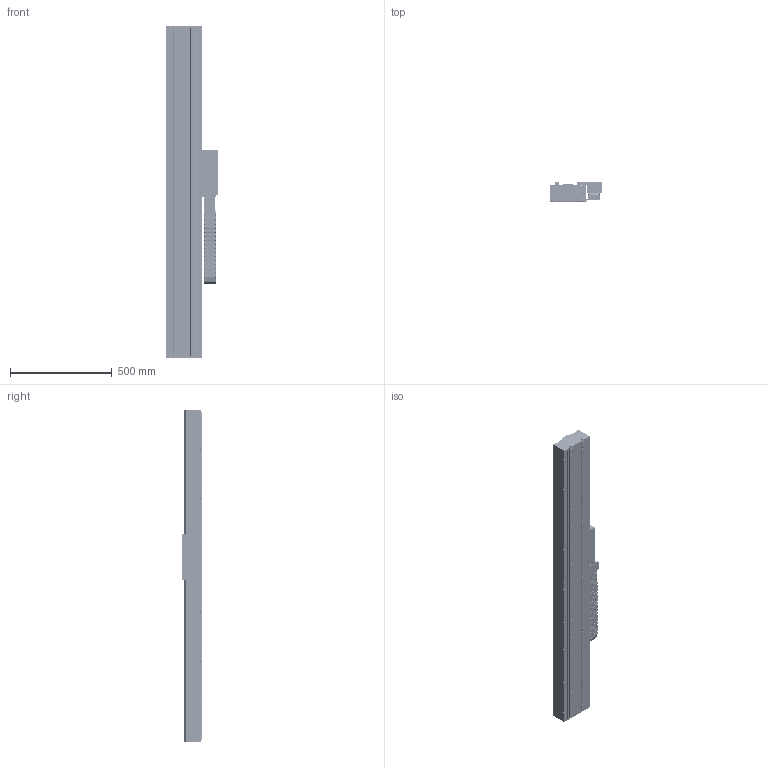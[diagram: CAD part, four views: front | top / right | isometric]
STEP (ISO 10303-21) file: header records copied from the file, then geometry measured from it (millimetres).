
FILE_DESCRIPTION (( 'STEP AP203' ), '1' );
FILE_NAME ('STF20120L-xC1B-Bxx.STEP', '2007-06-22T21:34:42', ( 'Yaskawa' ), ( 'Yaskawa' ), 'SwSTEP 2.0', 'SolidWorks 2007', '' );
FILE_SCHEMA (( 'CONFIG_CONTROL_DESIGN' ));
Length unit declared in the file: millimetre
Products named in the file (59): STF2035-007 End Stop; Complete Carriage; STF20-120 SSR15W Carriage-R2; STF2035-001B F20-120 Carriage; STF2035-002A-R2 F2035 Carriage Horn; STF2035-005-R2 Cable Router; STF2035-003 Renishaw Encoder Mount; RGH22B; STF2035-004 Flag; SSR15W Block; STCM-R1; STCM-001-R2 Cable Bracket; STCM-002-R2 Cable Assembly Front; STCM-003 Cable Assembly Bottom; STCM-005-R1 Cable Assembly Cover; STCM-006-R1 Upper E-chain Bracket; Serial Converter; STF2035-006 Endplate; STF2035-009-02 Top Cover 2_L; STF2035-010-02 Side Cover 2_L; 07.50.028.0_97; STCM-007 Lower E-Chain Bracket; STF20120L; 07.50.028.0_96; 07.50.028.0_99; 07.50.028.0_117; 07.50.028.0_100; 07.50.028.0_101; End Stop with Bumper; 07.50.028.0_109; 07.50.028.0_104; 07.50.028.0_106; 07.50.028.0_107; SGLFM-20756AC; 07.50.028.0_108; 07.50.028.0_110; 07.50.028.0_112; 07.50.028.0_113; 07.50.028.0_114; 07.50.028.0_115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
Assembly tree (87 placements, depth 4):
  STF20120L-xC1B-Bxx
    Complete Carriage
      STF20-120 SSR15W Carriage-R2
        SSR15W Block  x4
        STF2035-001B F20-120 Carriage
        STF2035-003 Renishaw Encoder Mount
        STF2035-002A-R2 F2035 Carriage Horn  x2
        SGLFW-20A120AP
        STF2035-005-R2 Cable Router
        RGH22B
        STF2035-004 Flag
      STCM-R1
        STCM-005-R1 Cable Assembly Cover
        STCM-004 Cable Assembly Side
        STCM-002-R2 Cable Assembly Front
        STCM-003 Cable Assembly Bottom
        STCM-006-R1 Upper E-chain Bracket
        Serial Converter
        STCM-001-R2 Cable Bracket
    STCM-007 Lower E-Chain Bracket
    STF2035-010-02 Side Cover 2_L  x2
    STF2035-006 Endplate  x2
    STF2035-009-02 Top Cover 2_L
    STF20120L
      07.50.028.0_108
      07.50.028.0_111  x11
      07.50.028.0_112
      07.50.028.0_105  x9
      07.50.028.0_103
      07.50.028.0_96
      07.50.028.0_97
      07.50.028.0_116
      07.50.028.0_117
      07.50.028.0_109
      07.50.028.0_110
      07.50.028.0_113
      07.50.028.0_120
      07.50.028.0_121
      07.50.028.0_122
      07.50.028.0_106
      07.50.028.0_107
      07.50.028.0_123
      07.50.028.0_99
      07.50.028.0_118
      07.50.028.0_101
      07.50.028.0_119
      07.50.028.0_98
      07.50.028.0_100
      07.50.028.0_114
      07.50.028.0_102
      07.50.028.0_104
      07.50.028.0_115
    STF20BM Base_STF20BM-011
      End Stop with Bumper  x4
        STF2035-007 End Stop
        Bumper-Medium
      STF20BM Base_STF20BM-011
      Mult-SR15+580LY_011  x2
      SGLFM-20756AC  x2
Bounding box: 254.2 x 94.7 x 1629.05 mm (x, y, z)
Volume: 9058812.5 mm3; surface area: 3063519.7 mm2
Topology: 128 solids, 128 shells, 6887 faces, 17956 edges, 11487 vertices
Faces by surface type: plane 3466, cylinder 2879, cone 494, bspline 44, torus 4
Entity records: 139877 total; most frequent: DIRECTION 23722, CARTESIAN_POINT 23148, ORIENTED_EDGE 21916, EDGE_CURVE 10958, AXIS2_PLACEMENT_3D 8365, VERTEX_POINT 7178, VECTOR 6992, LINE 6992
